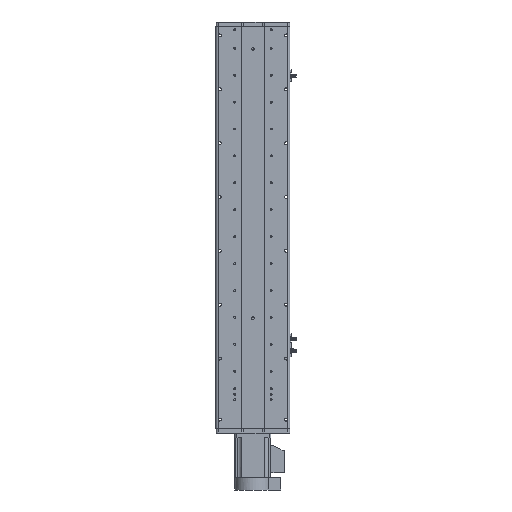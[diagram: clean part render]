
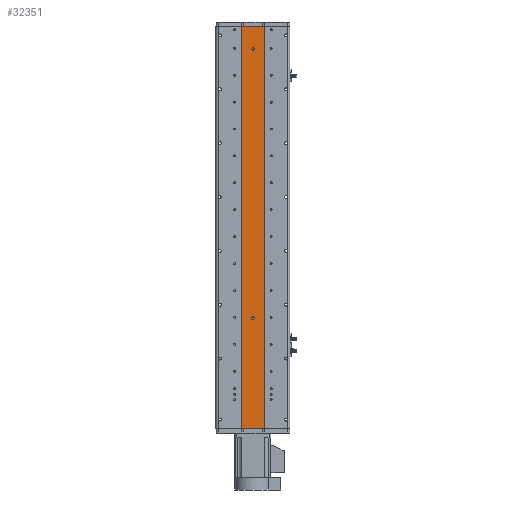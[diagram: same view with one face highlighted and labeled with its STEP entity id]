
A CAD part, front view. The second image highlights one B-rep face of the part: STEP entity #32351.
In plain terms, the highlighted planar face has unit normal (0, -1, 0).
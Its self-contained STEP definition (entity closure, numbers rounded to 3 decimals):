
#247 = DIRECTION ( 'NONE',  ( 0., 0., -1. ) ) ;
#637 = DIRECTION ( 'NONE',  ( 0., -1., 0. ) ) ;
#703 = VERTEX_POINT ( 'NONE', #25935 ) ;
#1510 = DIRECTION ( 'NONE',  ( 1., 0., 0. ) ) ;
#1779 = LINE ( 'NONE', #10415, #24827 ) ;
#2047 = LINE ( 'NONE', #33440, #7752 ) ;
#2134 = ORIENTED_EDGE ( 'NONE', *, *, #30514, .F. ) ;
#4234 = CARTESIAN_POINT ( 'NONE',  ( -25., 1., -448. ) ) ;
#5896 = AXIS2_PLACEMENT_3D ( 'NONE', #36124, #18223, #247 ) ;
#6552 = EDGE_CURVE ( 'NONE', #20231, #8404, #1779, .T. ) ;
#6606 = DIRECTION ( 'NONE',  ( 0., 0., -1. ) ) ;
#7047 = EDGE_LOOP ( 'NONE', ( #20377, #12770 ) ) ;
#7314 = FACE_BOUND ( 'NONE', #7047, .T. ) ;
#7421 = PLANE ( 'NONE',  #32461 ) ;
#7752 = VECTOR ( 'NONE', #6606, 1000. ) ;
#8404 = VERTEX_POINT ( 'NONE', #30422 ) ;
#9361 = ORIENTED_EDGE ( 'NONE', *, *, #29714, .F. ) ;
#9950 = VERTEX_POINT ( 'NONE', #26307 ) ;
#10134 = VECTOR ( 'NONE', #36324, 1000. ) ;
#10415 = CARTESIAN_POINT ( 'NONE',  ( 25., 1., -448. ) ) ;
#10549 = DIRECTION ( 'NONE',  ( 0., 0., 1. ) ) ;
#10690 = LINE ( 'NONE', #10974, #11653 ) ;
#10812 = ORIENTED_EDGE ( 'NONE', *, *, #23114, .F. ) ;
#10966 = VERTEX_POINT ( 'NONE', #30696 ) ;
#10974 = CARTESIAN_POINT ( 'NONE',  ( 25., 1., 448. ) ) ;
#11653 = VECTOR ( 'NONE', #28935, 1000. ) ;
#11751 = CARTESIAN_POINT ( 'NONE',  ( 0., 1., -202. ) ) ;
#12770 = ORIENTED_EDGE ( 'NONE', *, *, #24044, .F. ) ;
#14528 = VERTEX_POINT ( 'NONE', #36208 ) ;
#14792 = DIRECTION ( 'NONE',  ( 0., 0., -1. ) ) ;
#17222 = DIRECTION ( 'NONE',  ( 0., -1., 0. ) ) ;
#17461 = EDGE_CURVE ( 'NONE', #24668, #20231, #2047, .T. ) ;
#18161 = LINE ( 'NONE', #33283, #10134 ) ;
#18223 = DIRECTION ( 'NONE',  ( 0., -1., 0. ) ) ;
#18589 = EDGE_LOOP ( 'NONE', ( #35891, #9361, #2134, #37067 ) ) ;
#18631 = CARTESIAN_POINT ( 'NONE',  ( 0., 1., 398. ) ) ;
#19497 = CARTESIAN_POINT ( 'NONE',  ( 25., 1., 448. ) ) ;
#20231 = VERTEX_POINT ( 'NONE', #4234 ) ;
#20377 = ORIENTED_EDGE ( 'NONE', *, *, #24134, .F. ) ;
#21630 = DIRECTION ( 'NONE',  ( 0., 0., -1. ) ) ;
#21980 = AXIS2_PLACEMENT_3D ( 'NONE', #18631, #637, #21630 ) ;
#22342 = FACE_BOUND ( 'NONE', #32999, .T. ) ;
#23114 = EDGE_CURVE ( 'NONE', #14528, #703, #32387, .T. ) ;
#24044 = EDGE_CURVE ( 'NONE', #10966, #29173, #26232, .T. ) ;
#24134 = EDGE_CURVE ( 'NONE', #29173, #10966, #29464, .T. ) ;
#24668 = VERTEX_POINT ( 'NONE', #30351 ) ;
#24827 = VECTOR ( 'NONE', #1510, 1000. ) ;
#25935 = CARTESIAN_POINT ( 'NONE',  ( 0., 1., -205. ) ) ;
#26232 = CIRCLE ( 'NONE', #5896, 3. ) ;
#26307 = CARTESIAN_POINT ( 'NONE',  ( 25., 1., 448. ) ) ;
#26961 = EDGE_CURVE ( 'NONE', #703, #14528, #37135, .T. ) ;
#28507 = DIRECTION ( 'NONE',  ( 0., 1., 0. ) ) ;
#28935 = DIRECTION ( 'NONE',  ( 0., 0., -1. ) ) ;
#29173 = VERTEX_POINT ( 'NONE', #30839 ) ;
#29394 = ORIENTED_EDGE ( 'NONE', *, *, #26961, .F. ) ;
#29464 = CIRCLE ( 'NONE', #21980, 3. ) ;
#29714 = EDGE_CURVE ( 'NONE', #9950, #8404, #10690, .T. ) ;
#30351 = CARTESIAN_POINT ( 'NONE',  ( -25., 1., 448. ) ) ;
#30422 = CARTESIAN_POINT ( 'NONE',  ( 25., 1., -448. ) ) ;
#30514 = EDGE_CURVE ( 'NONE', #24668, #9950, #18161, .T. ) ;
#30696 = CARTESIAN_POINT ( 'NONE',  ( 0., 1., 401. ) ) ;
#30839 = CARTESIAN_POINT ( 'NONE',  ( 0., 1., 395. ) ) ;
#32351 = ADVANCED_FACE ( 'NONE', ( #7314, #22342, #38218 ), #7421, .F. ) ;
#32387 = CIRCLE ( 'NONE', #37689, 3. ) ;
#32461 = AXIS2_PLACEMENT_3D ( 'NONE', #19497, #28507, #10549 ) ;
#32721 = DIRECTION ( 'NONE',  ( 0., -1., 0. ) ) ;
#32999 = EDGE_LOOP ( 'NONE', ( #29394, #10812 ) ) ;
#33283 = CARTESIAN_POINT ( 'NONE',  ( 25., 1., 448. ) ) ;
#33440 = CARTESIAN_POINT ( 'NONE',  ( -25., 1., 448. ) ) ;
#34288 = AXIS2_PLACEMENT_3D ( 'NONE', #11751, #32721, #14792 ) ;
#35119 = CARTESIAN_POINT ( 'NONE',  ( 0., 1., -202. ) ) ;
#35891 = ORIENTED_EDGE ( 'NONE', *, *, #6552, .T. ) ;
#36124 = CARTESIAN_POINT ( 'NONE',  ( 0., 1., 398. ) ) ;
#36208 = CARTESIAN_POINT ( 'NONE',  ( 0., 1., -199. ) ) ;
#36324 = DIRECTION ( 'NONE',  ( 1., 0., 0. ) ) ;
#37067 = ORIENTED_EDGE ( 'NONE', *, *, #17461, .T. ) ;
#37135 = CIRCLE ( 'NONE', #34288, 3. ) ;
#37689 = AXIS2_PLACEMENT_3D ( 'NONE', #35119, #17222, #38158 ) ;
#38158 = DIRECTION ( 'NONE',  ( 0., 0., -1. ) ) ;
#38218 = FACE_OUTER_BOUND ( 'NONE', #18589, .T. ) ;
